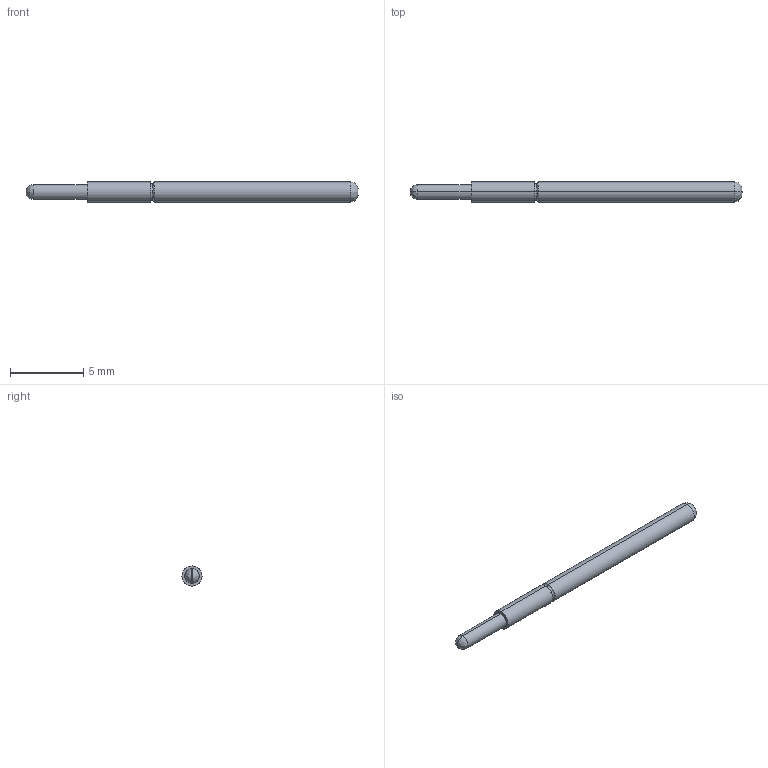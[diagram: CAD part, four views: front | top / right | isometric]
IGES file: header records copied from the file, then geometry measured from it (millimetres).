
Start section: SolidWorks IGES file using analytic representation for surfaces
Global section: file name: O:\PYLON\IGES FILES\P2664\P2664G-1R1S.IGS; native system: SolidWorks 2015; preprocessor: SolidWorks 2015; author: kgolden; date: 171019.131316; units: inch
Bounding box: 22.73 x 1.37 x 1.37 mm (x, y, z)
Surface area: 98.7 mm2 (no closed solid volume)
Topology: 0 solids, 0 shells, 19 faces, 120 edges, 120 vertices
Faces by surface type: bspline 11, revolution 8
